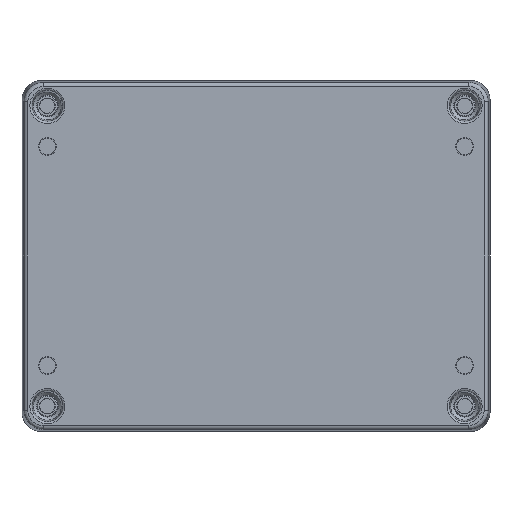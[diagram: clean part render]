
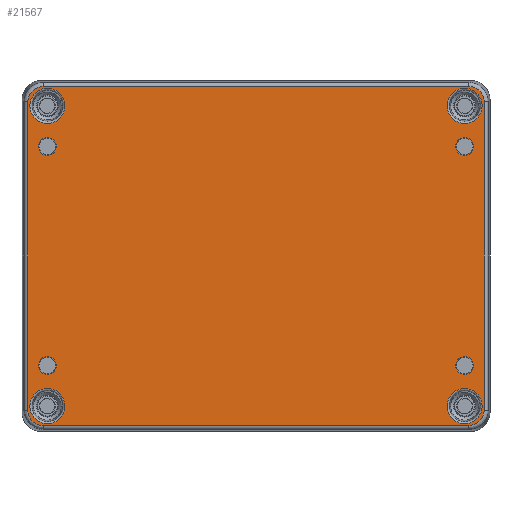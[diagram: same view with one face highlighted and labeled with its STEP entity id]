
A CAD part, front view. The second image highlights one B-rep face of the part: STEP entity #21567.
In plain terms, the highlighted planar face has unit normal (0, -1, 0).
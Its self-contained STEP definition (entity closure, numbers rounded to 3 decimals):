
#154=ELLIPSE('',#23074,4.001,4.);
#155=ELLIPSE('',#23075,4.001,4.);
#156=ELLIPSE('',#23076,4.001,4.);
#157=ELLIPSE('',#23077,4.001,4.);
#279=FACE_BOUND('',#6031,.T.);
#280=FACE_BOUND('',#6032,.T.);
#281=FACE_BOUND('',#6033,.T.);
#282=FACE_BOUND('',#6034,.T.);
#283=FACE_BOUND('',#6035,.T.);
#284=FACE_BOUND('',#6036,.T.);
#285=FACE_BOUND('',#6037,.T.);
#286=FACE_BOUND('',#6038,.T.);
#778=LINE('',#36861,#2427);
#779=LINE('',#36865,#2428);
#780=LINE('',#36869,#2429);
#781=LINE('',#36873,#2430);
#2427=VECTOR('',#25104,10.);
#2428=VECTOR('',#25107,10.);
#2429=VECTOR('',#25110,10.);
#2430=VECTOR('',#25113,10.);
#4071=PLANE('',#23073);
#4710=FACE_OUTER_BOUND('',#6030,.T.);
#6030=EDGE_LOOP('',(#14791,#14792,#14793,#14794,#14795,#14796,#14797,#14798));
#6031=EDGE_LOOP('',(#14799));
#6032=EDGE_LOOP('',(#14800));
#6033=EDGE_LOOP('',(#14801));
#6034=EDGE_LOOP('',(#14802));
#6035=EDGE_LOOP('',(#14803));
#6036=EDGE_LOOP('',(#14804));
#6037=EDGE_LOOP('',(#14805));
#6038=EDGE_LOOP('',(#14806));
#7485=CIRCLE('',#23071,4.492);
#7487=CIRCLE('',#23078,4.492);
#7488=CIRCLE('',#23079,4.492);
#7489=CIRCLE('',#23080,2.258);
#7490=CIRCLE('',#23081,2.258);
#7491=CIRCLE('',#23082,2.258);
#7492=CIRCLE('',#23083,2.258);
#7493=CIRCLE('',#23084,4.492);
#9176=VERTEX_POINT('',#36855);
#9177=VERTEX_POINT('',#36859);
#9178=VERTEX_POINT('',#36860);
#9179=VERTEX_POINT('',#36862);
#9180=VERTEX_POINT('',#36864);
#9181=VERTEX_POINT('',#36866);
#9182=VERTEX_POINT('',#36868);
#9183=VERTEX_POINT('',#36870);
#9184=VERTEX_POINT('',#36872);
#9185=VERTEX_POINT('',#36875);
#9186=VERTEX_POINT('',#36877);
#9187=VERTEX_POINT('',#36879);
#9188=VERTEX_POINT('',#36881);
#9189=VERTEX_POINT('',#36883);
#9190=VERTEX_POINT('',#36885);
#9191=VERTEX_POINT('',#36887);
#11376=EDGE_CURVE('',#9176,#9176,#7485,.T.);
#11378=EDGE_CURVE('',#9177,#9178,#778,.T.);
#11379=EDGE_CURVE('',#9179,#9177,#154,.T.);
#11380=EDGE_CURVE('',#9180,#9179,#779,.T.);
#11381=EDGE_CURVE('',#9181,#9180,#155,.T.);
#11382=EDGE_CURVE('',#9182,#9181,#780,.T.);
#11383=EDGE_CURVE('',#9183,#9182,#156,.T.);
#11384=EDGE_CURVE('',#9184,#9183,#781,.T.);
#11385=EDGE_CURVE('',#9178,#9184,#157,.T.);
#11386=EDGE_CURVE('',#9185,#9185,#7487,.T.);
#11387=EDGE_CURVE('',#9186,#9186,#7488,.T.);
#11388=EDGE_CURVE('',#9187,#9187,#7489,.F.);
#11389=EDGE_CURVE('',#9188,#9188,#7490,.F.);
#11390=EDGE_CURVE('',#9189,#9189,#7491,.F.);
#11391=EDGE_CURVE('',#9190,#9190,#7492,.F.);
#11392=EDGE_CURVE('',#9191,#9191,#7493,.T.);
#14791=ORIENTED_EDGE('',*,*,#11378,.F.);
#14792=ORIENTED_EDGE('',*,*,#11379,.F.);
#14793=ORIENTED_EDGE('',*,*,#11380,.F.);
#14794=ORIENTED_EDGE('',*,*,#11381,.F.);
#14795=ORIENTED_EDGE('',*,*,#11382,.F.);
#14796=ORIENTED_EDGE('',*,*,#11383,.F.);
#14797=ORIENTED_EDGE('',*,*,#11384,.F.);
#14798=ORIENTED_EDGE('',*,*,#11385,.F.);
#14799=ORIENTED_EDGE('',*,*,#11386,.F.);
#14800=ORIENTED_EDGE('',*,*,#11387,.F.);
#14801=ORIENTED_EDGE('',*,*,#11388,.T.);
#14802=ORIENTED_EDGE('',*,*,#11389,.T.);
#14803=ORIENTED_EDGE('',*,*,#11390,.T.);
#14804=ORIENTED_EDGE('',*,*,#11391,.T.);
#14805=ORIENTED_EDGE('',*,*,#11392,.F.);
#14806=ORIENTED_EDGE('',*,*,#11376,.F.);
#21567=ADVANCED_FACE('',(#4710,#279,#280,#281,#282,#283,#284,#285,#286),
#4071,.T.);
#23071=AXIS2_PLACEMENT_3D('',#36856,#25098,#25099);
#23073=AXIS2_PLACEMENT_3D('',#36858,#25102,#25103);
#23074=AXIS2_PLACEMENT_3D('',#36863,#25105,#25106);
#23075=AXIS2_PLACEMENT_3D('',#36867,#25108,#25109);
#23076=AXIS2_PLACEMENT_3D('',#36871,#25111,#25112);
#23077=AXIS2_PLACEMENT_3D('',#36874,#25114,#25115);
#23078=AXIS2_PLACEMENT_3D('',#36876,#25116,#25117);
#23079=AXIS2_PLACEMENT_3D('',#36878,#25118,#25119);
#23080=AXIS2_PLACEMENT_3D('',#36880,#25120,#25121);
#23081=AXIS2_PLACEMENT_3D('',#36882,#25122,#25123);
#23082=AXIS2_PLACEMENT_3D('',#36884,#25124,#25125);
#23083=AXIS2_PLACEMENT_3D('',#36886,#25126,#25127);
#23084=AXIS2_PLACEMENT_3D('',#36888,#25128,#25129);
#25098=DIRECTION('center_axis',(0.,-1.,0.));
#25099=DIRECTION('ref_axis',(-1.,0.,0.));
#25102=DIRECTION('center_axis',(0.,-1.,0.));
#25103=DIRECTION('ref_axis',(0.,0.,-1.));
#25104=DIRECTION('',(1.,0.,0.));
#25105=DIRECTION('center_axis',(0.,1.,0.));
#25106=DIRECTION('ref_axis',(-0.707,0.,0.707));
#25107=DIRECTION('',(0.,0.,1.));
#25108=DIRECTION('center_axis',(0.,1.,0.));
#25109=DIRECTION('ref_axis',(-0.707,0.,-0.707));
#25110=DIRECTION('',(-1.,0.,0.));
#25111=DIRECTION('center_axis',(0.,1.,0.));
#25112=DIRECTION('ref_axis',(0.707,0.,-0.707));
#25113=DIRECTION('',(0.,0.,-1.));
#25114=DIRECTION('center_axis',(0.,1.,0.));
#25115=DIRECTION('ref_axis',(0.707,0.,0.707));
#25116=DIRECTION('center_axis',(0.,-1.,0.));
#25117=DIRECTION('ref_axis',(-1.,0.,0.));
#25118=DIRECTION('center_axis',(0.,-1.,0.));
#25119=DIRECTION('ref_axis',(1.,0.,0.));
#25120=DIRECTION('center_axis',(0.,-1.,0.));
#25121=DIRECTION('ref_axis',(-1.,0.,0.));
#25122=DIRECTION('center_axis',(0.,-1.,0.));
#25123=DIRECTION('ref_axis',(1.,0.,0.));
#25124=DIRECTION('center_axis',(0.,-1.,0.));
#25125=DIRECTION('ref_axis',(-1.,0.,0.));
#25126=DIRECTION('center_axis',(0.,-1.,0.));
#25127=DIRECTION('ref_axis',(1.,0.,0.));
#25128=DIRECTION('center_axis',(0.,-1.,0.));
#25129=DIRECTION('ref_axis',(1.,0.,0.));
#36855=CARTESIAN_POINT('',(-53.5,-30.05,-42.992));
#36856=CARTESIAN_POINT('Origin',(-53.5,-30.05,-38.5));
#36858=CARTESIAN_POINT('Origin',(0.,-30.05,0.));
#36859=CARTESIAN_POINT('',(-54.493,-30.05,43.493));
#36860=CARTESIAN_POINT('',(54.493,-30.05,43.493));
#36861=CARTESIAN_POINT('',(-30.,-30.05,43.493));
#36862=CARTESIAN_POINT('',(-58.493,-30.05,39.493));
#36863=CARTESIAN_POINT('Origin',(-54.492,-30.05,39.492));
#36864=CARTESIAN_POINT('',(-58.493,-30.05,-39.493));
#36865=CARTESIAN_POINT('',(-58.493,-30.05,-22.5));
#36866=CARTESIAN_POINT('',(-54.493,-30.05,-43.493));
#36867=CARTESIAN_POINT('Origin',(-54.492,-30.05,-39.492));
#36868=CARTESIAN_POINT('',(54.493,-30.05,-43.493));
#36869=CARTESIAN_POINT('',(30.,-30.05,-43.493));
#36870=CARTESIAN_POINT('',(58.493,-30.05,-39.493));
#36871=CARTESIAN_POINT('Origin',(54.492,-30.05,-39.492));
#36872=CARTESIAN_POINT('',(58.493,-30.05,39.493));
#36873=CARTESIAN_POINT('',(58.493,-30.05,22.5));
#36874=CARTESIAN_POINT('Origin',(54.492,-30.05,39.492));
#36875=CARTESIAN_POINT('',(-53.5,-30.05,34.008));
#36876=CARTESIAN_POINT('Origin',(-53.5,-30.05,38.5));
#36877=CARTESIAN_POINT('',(53.5,-30.05,34.008));
#36878=CARTESIAN_POINT('Origin',(53.5,-30.05,38.5));
#36879=CARTESIAN_POINT('',(-51.242,-30.05,-28.1));
#36880=CARTESIAN_POINT('Origin',(-53.5,-30.05,-28.1));
#36881=CARTESIAN_POINT('',(51.242,-30.05,-28.1));
#36882=CARTESIAN_POINT('Origin',(53.5,-30.05,-28.1));
#36883=CARTESIAN_POINT('',(-51.242,-30.05,28.1));
#36884=CARTESIAN_POINT('Origin',(-53.5,-30.05,28.1));
#36885=CARTESIAN_POINT('',(51.242,-30.05,28.1));
#36886=CARTESIAN_POINT('Origin',(53.5,-30.05,28.1));
#36887=CARTESIAN_POINT('',(53.5,-30.05,-42.992));
#36888=CARTESIAN_POINT('Origin',(53.5,-30.05,-38.5));
